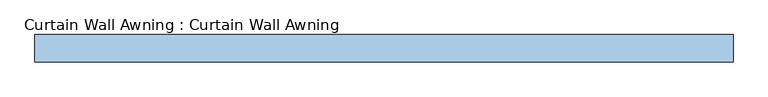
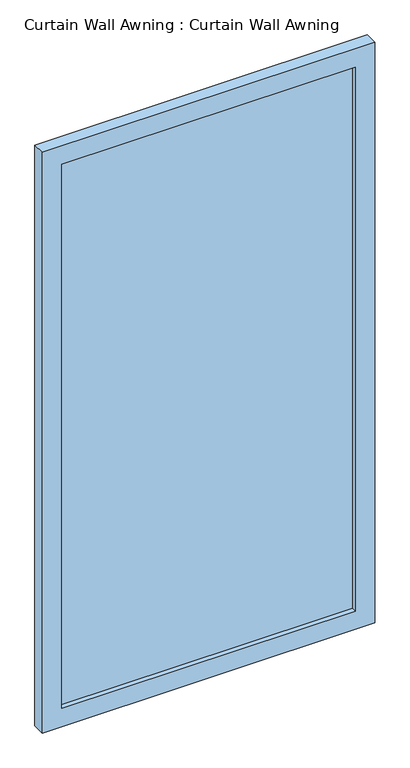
"""IFC4 building model written with IfcOpenShell, lengths in millimetres: window geometry, Curtain Wall Awning : Curtain Wall Awning."""

from ifc_helpers import new_model, si_unit, frame, origin, place, context, project, spatial, polyline, outline, extrude, source, transform, mapped, element, save


def curtain_wall_awning_curtain_wall_awning_246b76a1(model_context):
    return source(origin(), model_context, "Body", "SweptSolid", [
        extrude(outline(polyline([(573.8, -44.45), (573.8, -57.15), (-573.8, -57.15), (-573.8, -44.45), (573.8, -44.45)])), frame((0.0, 0.0, 76.2), z_axis=(0.0, 0.0, 1.0), x_axis=(1.0, 0.0, 0.0)), (0.0, 0.0, 1.0), 2247.6),
        extrude(outline(polyline([(2400.0, -650.0), (0.0, -650.0), (0.0, 650.0), (2400.0, 650.0), (2400.0, -650.0)]), holes=[polyline([(2323.8, -573.8), (2323.8, 573.8), (76.2, 573.8), (76.2, -573.8), (2323.8, -573.8)])]), frame((0.0, -76.2, 0.0), z_axis=(0.0, 1.0, 0.0), x_axis=(0.0, 0.0, 1.0)), (0.0, 0.0, 1.0), 50.8),
    ])


if __name__ == "__main__":
    model = new_model("IFC4")
    model_context = context("Model", 3, world=origin())
    ifc_project = project(units=[si_unit("LENGTHUNIT", "METRE", prefix="MILLI")], contexts=[model_context])
    site = spatial("IfcSite", under=ifc_project)
    building = spatial("IfcBuilding", under=site)
    placement = place(None, origin())
    curtain_wall_awning_curtain_wall_awning_shape = curtain_wall_awning_curtain_wall_awning_246b76a1(model_context)
    element("IfcWindow", 1, ObjectType="Curtain Wall Awning : Curtain Wall Awning", at=placement, inside=building, context=model_context, shape_type="MappedRepresentation", body=[
        mapped(curtain_wall_awning_curtain_wall_awning_shape, transform((0.0, 0.0, 0.0), x_axis=(1.0, 0.0, 0.0), y_axis=(0.0, 1.0, 0.0), z_axis=(0.0, 0.0, 1.0))),
    ])
    save(model, "model.ifc")
